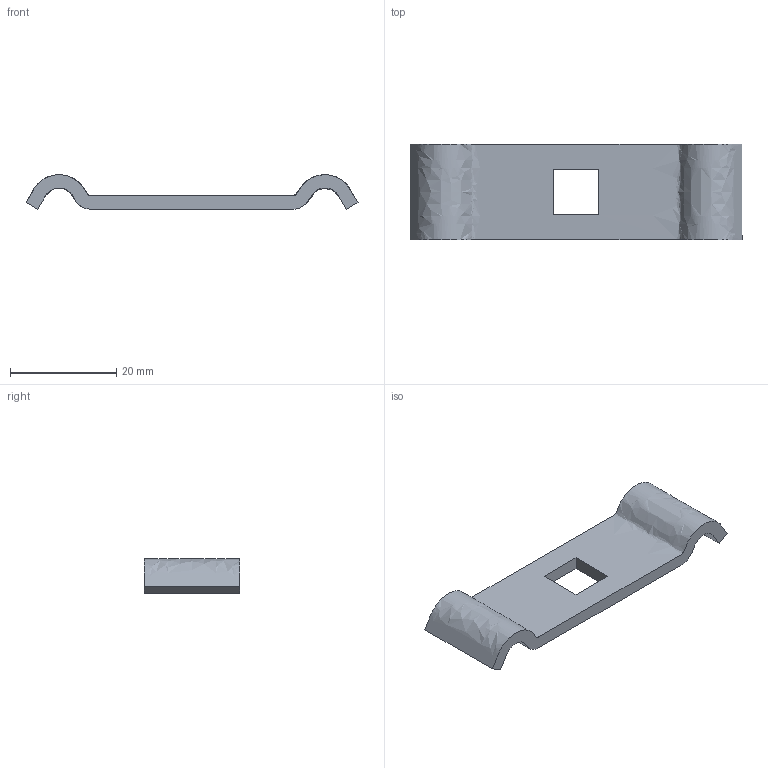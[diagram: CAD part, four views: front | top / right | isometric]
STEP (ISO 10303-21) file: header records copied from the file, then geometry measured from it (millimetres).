
FILE_DESCRIPTION(/* description */ (''),/* implementation_level */ '2;1');
FILE_NAME(/* name */ 'DZM11_~1',/* time_stamp */ '2024-01-28T21:14:25+01:00',/* author */ (''),/* organization */ (''),/* preprocessor_version */ 'ST-DEVELOPER v16.5',/* originating_system */ '',/* authorisation */ '');
FILE_SCHEMA (('CONFIG_CONTROL_DESIGN'));
Length unit declared in the file: millimetre
Products named in the file (1): Document
Bounding box: 62.45 x 18 x 6.5 mm (x, y, z)
Volume: 1386.7 mm3; surface area: 2767.5 mm2
Topology: 1 solids, 1 shells, 11 faces, 27 edges, 18 vertices
Faces by surface type: plane 8, bspline 3
Entity records: 531 total; most frequent: CARTESIAN_POINT 258, ORIENTED_EDGE 54, EDGE_CURVE 27, B_SPLINE_CURVE_WITH_KNOTS 21, VERTEX_POINT 18, EDGE_LOOP 13, DIRECTION 12, ADVANCED_FACE 11
